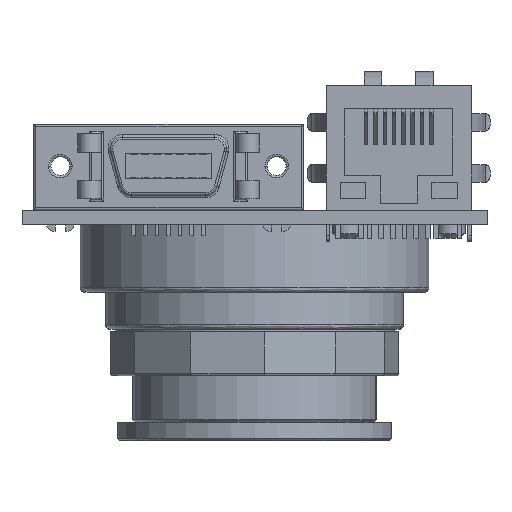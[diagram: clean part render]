
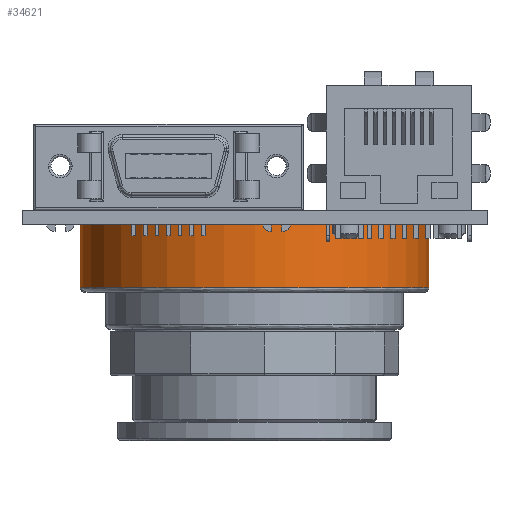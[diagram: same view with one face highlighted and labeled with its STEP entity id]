
A CAD part, front view. The second image highlights one B-rep face of the part: STEP entity #34621.
In plain terms, the highlighted cylindrical face has radius 19.05 mm (diameter 38.1 mm), a partial arc.
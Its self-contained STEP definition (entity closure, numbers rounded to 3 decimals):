
#812 = CARTESIAN_POINT ( 'NONE',  ( -19.05, 0., 11.43 ) ) ;
#832 = VERTEX_POINT ( 'NONE', #37922 ) ;
#7670 = CARTESIAN_POINT ( 'NONE',  ( 0., 0., 6.858 ) ) ;
#9955 = VERTEX_POINT ( 'NONE', #60562 ) ;
#11054 = EDGE_CURVE ( 'NONE', #20917, #16090, #47652, .T. ) ;
#12743 = DIRECTION ( 'NONE',  ( -1., 0., 0. ) ) ;
#16090 = VERTEX_POINT ( 'NONE', #41889 ) ;
#17793 = CARTESIAN_POINT ( 'NONE',  ( -19.05, 0., 0. ) ) ;
#19564 = AXIS2_PLACEMENT_3D ( 'NONE', #21981, #21848, #21769 ) ;
#20421 = CARTESIAN_POINT ( 'NONE',  ( 0., 0., 11.43 ) ) ;
#20917 = VERTEX_POINT ( 'NONE', #17793 ) ;
#21769 = DIRECTION ( 'NONE',  ( -1., 0., 0. ) ) ;
#21848 = DIRECTION ( 'NONE',  ( 0., 0., 1. ) ) ;
#21981 = CARTESIAN_POINT ( 'NONE',  ( 0., 0., 0. ) ) ;
#23704 = FACE_OUTER_BOUND ( 'NONE', #29947, .T. ) ;
#25938 = DIRECTION ( 'NONE',  ( 0., 0., -1. ) ) ;
#28406 = VECTOR ( 'NONE', #63008, 1000. ) ;
#29947 = EDGE_LOOP ( 'NONE', ( #50391, #50189, #31482, #56859 ) ) ;
#30742 = CYLINDRICAL_SURFACE ( 'NONE', #56207, 19.05 ) ;
#31482 = ORIENTED_EDGE ( 'NONE', *, *, #63610, .T. ) ;
#33754 = AXIS2_PLACEMENT_3D ( 'NONE', #7670, #42430, #12743 ) ;
#34609 = VECTOR ( 'NONE', #25938, 1000. ) ;
#34621 = ADVANCED_FACE ( 'NONE', ( #23704 ), #30742, .T. ) ;
#37922 = CARTESIAN_POINT ( 'NONE',  ( 19.05, 0., 6.858 ) ) ;
#41540 = LINE ( 'NONE', #53354, #28406 ) ;
#41889 = CARTESIAN_POINT ( 'NONE',  ( 19.05, 0., 0. ) ) ;
#42430 = DIRECTION ( 'NONE',  ( 0., 0., -1. ) ) ;
#45338 = DIRECTION ( 'NONE',  ( -1., 0., 0. ) ) ;
#46669 = EDGE_CURVE ( 'NONE', #832, #9955, #52122, .T. ) ;
#47652 = CIRCLE ( 'NONE', #19564, 19.05 ) ;
#47680 = LINE ( 'NONE', #812, #34609 ) ;
#49808 = DIRECTION ( 'NONE',  ( 0., 0., -1. ) ) ;
#49907 = EDGE_CURVE ( 'NONE', #832, #16090, #41540, .T. ) ;
#50189 = ORIENTED_EDGE ( 'NONE', *, *, #46669, .T. ) ;
#50391 = ORIENTED_EDGE ( 'NONE', *, *, #49907, .F. ) ;
#52122 = CIRCLE ( 'NONE', #33754, 19.05 ) ;
#53354 = CARTESIAN_POINT ( 'NONE',  ( 19.05, 0., 11.43 ) ) ;
#56207 = AXIS2_PLACEMENT_3D ( 'NONE', #20421, #49808, #45338 ) ;
#56859 = ORIENTED_EDGE ( 'NONE', *, *, #11054, .T. ) ;
#60562 = CARTESIAN_POINT ( 'NONE',  ( -19.05, 0., 6.858 ) ) ;
#63008 = DIRECTION ( 'NONE',  ( 0., 0., -1. ) ) ;
#63610 = EDGE_CURVE ( 'NONE', #9955, #20917, #47680, .T. ) ;
